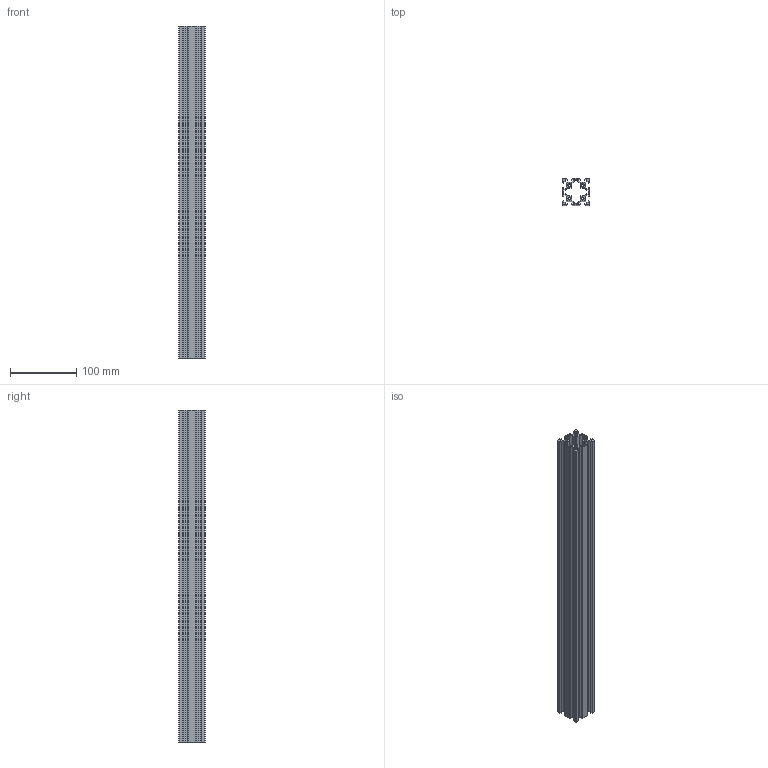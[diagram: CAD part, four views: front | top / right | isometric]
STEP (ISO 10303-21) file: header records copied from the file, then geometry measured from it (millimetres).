
FILE_DESCRIPTION (( 'STEP AP214' ), '1' );
FILE_NAME ('T-V-Slot–40x40mm.step', '2024-07-09T09:36:00', ( '' ), ( '' ), 'SwSTEP 2.0', 'SolidWorks 2024', '' );
FILE_SCHEMA (( 'AUTOMOTIVE_DESIGN' ));
Length unit declared in the file: millimetre
Products named in the file (1): T-V-Slot–40x40mm
Bounding box: 40 x 40 x 500 mm (x, y, z)
Volume: 236672.7 mm3; surface area: 238444.8 mm2
Topology: 1 solids, 1 shells, 186 faces, 552 edges, 368 vertices
Faces by surface type: plane 142, cylinder 44
Entity records: 6227 total; most frequent: CARTESIAN_POINT 1107, ORIENTED_EDGE 1104, DIRECTION 1014, EDGE_CURVE 552, LINE 464, VECTOR 464, VERTEX_POINT 368, AXIS2_PLACEMENT_3D 275
